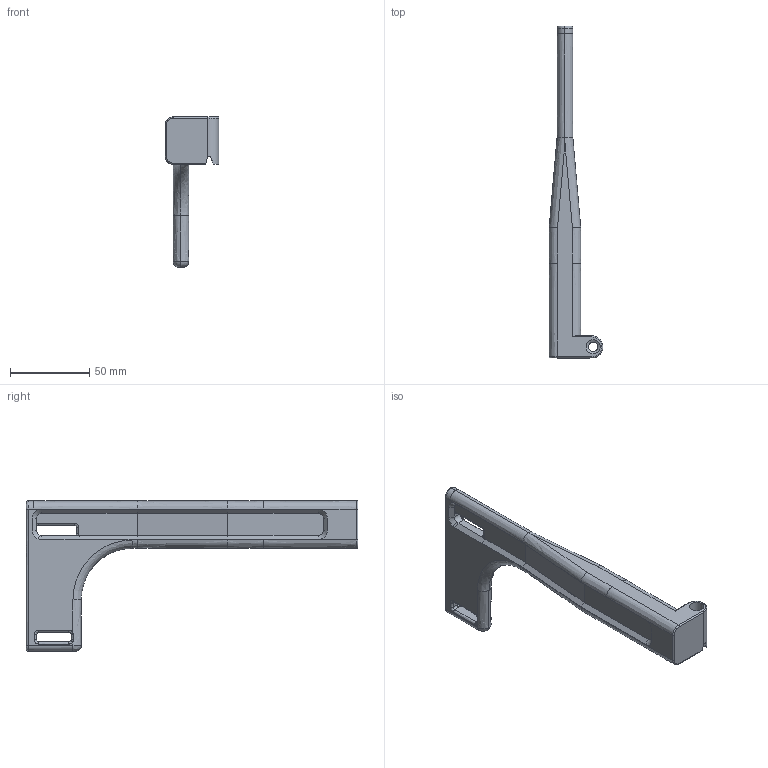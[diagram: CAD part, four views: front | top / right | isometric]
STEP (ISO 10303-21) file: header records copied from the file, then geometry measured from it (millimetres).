
FILE_DESCRIPTION(/* description */ (''),/* implementation_level */ '2;1');
FILE_NAME(/* name */ 'C:/Users/Jerem/Dropbox/My PC (DESKTOP-P6VV6KQ)/Desktop/Brace V2.step',/* time_stamp */ '2021-02-07T17:44:13-07:00',/* author */ (''),/* organization */ (''),/* preprocessor_version */ 'ST-DEVELOPER v18.1',/* originating_system */ 'Autodesk Translation Framework v9.7.1.1290',/* authorisation */ '');
FILE_SCHEMA (('AUTOMOTIVE_DESIGN { 1 0 10303 214 3 1 1 }'));
Length unit declared in the file: inch
Products named in the file (1): Brace V2
Bounding box: 34 x 210 x 95 mm (x, y, z)
Volume: 102348.3 mm3; surface area: 26469.7 mm2
Topology: 1 solids, 1 shells, 161 faces, 413 edges, 249 vertices
Faces by surface type: bspline 66, plane 55, cylinder 24, cone 9, torus 7
Full cylindrical faces by diameter (mm): 6 x1, 9 x1
Entity records: 7184 total; most frequent: CARTESIAN_POINT 3758, ORIENTED_EDGE 826, DIRECTION 494, EDGE_CURVE 413, VERTEX_POINT 249, B_SPLINE_CURVE_WITH_KNOTS 184, AXIS2_PLACEMENT_3D 169, EDGE_LOOP 162
